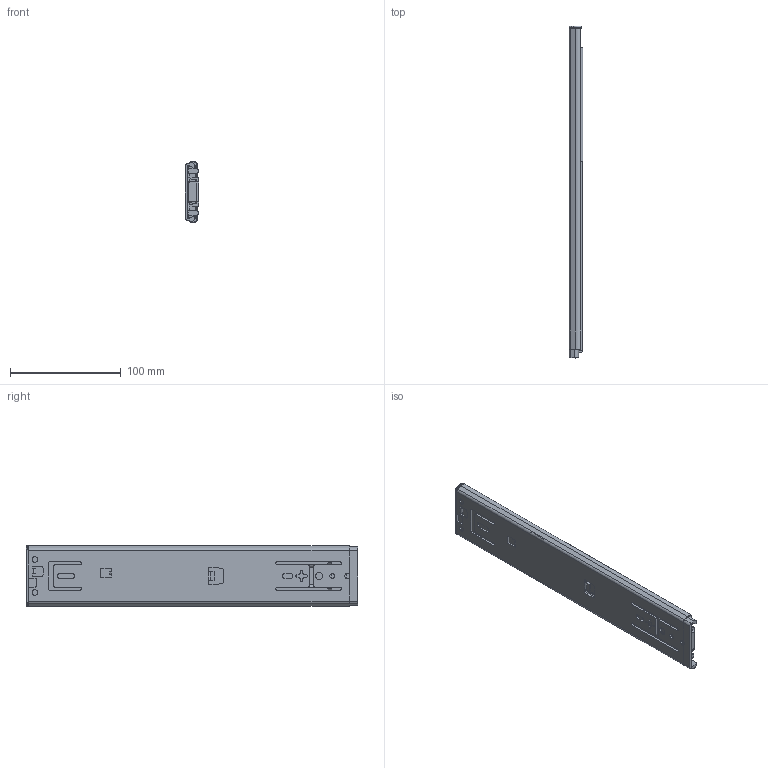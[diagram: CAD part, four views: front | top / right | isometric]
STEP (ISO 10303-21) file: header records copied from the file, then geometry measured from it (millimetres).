
FILE_DESCRIPTION( ( 'Unknown' ), '1' );
FILE_NAME( 'C:/Users/rd30/Desktop/85A01-300-Close.stp', 'Unknown', ( 'Unknown' ), ( 'Unknown' ), 'PSStep 14.0', 'Unknown', ' ' );
FILE_SCHEMA( ( 'AUTOMOTIVE_DESIGN { 1 0 10303 214 1 1 1 1 }' ) );
Length unit declared in the file: millimetre
Products named in the file (8): P10-366-3-1; P10-367-130429; 本體(卡式)20130423-\X2\4FEE6A21571\X0\; Assem1; 85A01P30-04-300; 85A01P30-04-B; 85A01P11-02-300; 85A01P21-03-300
Assembly tree (7 placements, depth 3):
  Assem1
    85A01P30-04-300
    85A01P30-04-B
    85A01P11-02-300
    85A01P21-03-300
    P10-366-3-1
      P10-367-130429
      本體(卡式)20130423-\X2\4FEE6A21571\X0\
Bounding box: 12.6 x 300 x 55.37 mm (x, y, z)
Volume: 119148.4 mm3; surface area: 95118.2 mm2
Topology: 6 solids, 6 shells, 531 faces, 1502 edges, 981 vertices
Faces by surface type: plane 265, cylinder 222, torus 24, cone 16, bspline 2, sphere 2
Full cylindrical faces by diameter (mm): 1.4 x1, 3 x1, 3.2 x1, 4.6 x1, 5 x4, 5.1 x1, 5.5 x1, 6.25 x1, 6.4 x1
Entity records: 21946 total; most frequent: CARTESIAN_POINT 3296, DIRECTION 2996, ORIENTED_EDGE 2950, EDGE_CURVE 1475, AXIS2_PLACEMENT_3D 1035, VERTEX_POINT 971, LINE 926, VECTOR 926
